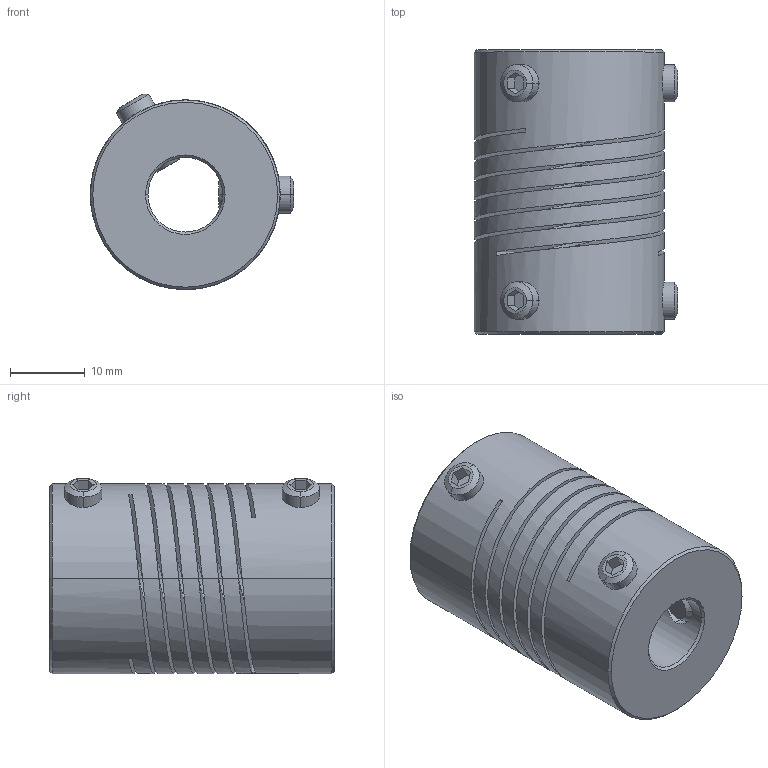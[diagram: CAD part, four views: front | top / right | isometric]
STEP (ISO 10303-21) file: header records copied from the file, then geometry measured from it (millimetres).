
FILE_DESCRIPTION((''),'2;1');
FILE_NAME('720_25_ASM','2006-12-05T',('Gary Melling'),(''),'PRO/ENGINEER BY PARAMETRIC TECHNOLOGY CORPORATION, 2006240','PRO/ENGINEER BY PARAMETRIC TECHNOLOGY CORPORATION, 2006240','');
FILE_SCHEMA(('CONFIG_CONTROL_DESIGN'));
Length unit declared in the file: millimetre
Products named in the file (3): 720_25; GS_5M; 720_25_ASM
Assembly tree (5 placements, depth 2):
  720_25_ASM
    720_25
    GS_5M  x4
Bounding box: 27.2 x 38.1 x 26.13 mm (x, y, z)
Volume: 14801.1 mm3; surface area: 11102.3 mm2
Topology: 5 solids, 5 shells, 120 faces, 318 edges, 204 vertices
Faces by surface type: plane 46, cylinder 44, cone 24, bspline 6
Entity records: 4587 total; most frequent: CARTESIAN_POINT 2614, ORIENTED_EDGE 444, DIRECTION 320, EDGE_CURVE 222, VERTEX_POINT 144, AXIS2_PLACEMENT_3D 109, VECTOR 102, LINE 102
